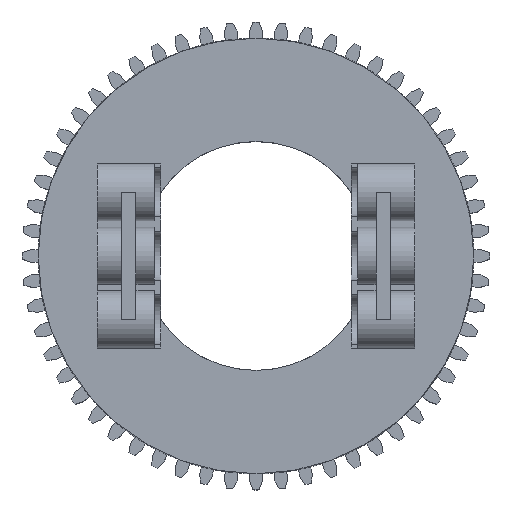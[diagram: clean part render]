
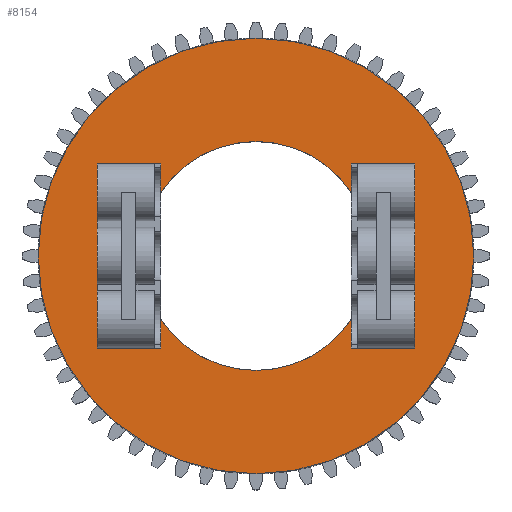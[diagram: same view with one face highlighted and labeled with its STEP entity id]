
A CAD part, top view. The second image highlights one B-rep face of the part: STEP entity #8154.
In plain terms, the highlighted planar face has unit normal (0, 0, 1).
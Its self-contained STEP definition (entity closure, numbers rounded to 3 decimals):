
#559=LINE('',#12761,#1443);
#561=LINE('',#12765,#1445);
#564=LINE('',#12771,#1448);
#565=LINE('',#12773,#1449);
#566=LINE('',#12774,#1450);
#568=LINE('',#12778,#1452);
#570=LINE('',#12782,#1454);
#573=LINE('',#12788,#1457);
#574=LINE('',#12790,#1458);
#575=LINE('',#12791,#1459);
#1443=VECTOR('',#10240,1000.);
#1445=VECTOR('',#10244,1000.);
#1448=VECTOR('',#10249,1000.);
#1449=VECTOR('',#10252,1000.);
#1450=VECTOR('',#10253,1000.);
#1452=VECTOR('',#10257,1000.);
#1454=VECTOR('',#10261,1000.);
#1457=VECTOR('',#10266,1000.);
#1458=VECTOR('',#10269,1000.);
#1459=VECTOR('',#10270,1000.);
#2113=PLANE('',#8877);
#4461=ORIENTED_EDGE('',*,*,#5286,.F.);
#4462=ORIENTED_EDGE('',*,*,#5285,.T.);
#4463=ORIENTED_EDGE('',*,*,#5282,.F.);
#4464=ORIENTED_EDGE('',*,*,#5280,.T.);
#4465=ORIENTED_EDGE('',*,*,#5287,.F.);
#4466=ORIENTED_EDGE('',*,*,#5576,.F.);
#4467=ORIENTED_EDGE('',*,*,#5277,.T.);
#4468=ORIENTED_EDGE('',*,*,#5276,.F.);
#4469=ORIENTED_EDGE('',*,*,#5273,.F.);
#4470=ORIENTED_EDGE('',*,*,#5271,.T.);
#4471=ORIENTED_EDGE('',*,*,#5278,.T.);
#4472=ORIENTED_EDGE('',*,*,#5577,.F.);
#4473=ORIENTED_EDGE('',*,*,#4830,.T.);
#4830=EDGE_CURVE('',#6006,#6006,#6572,.T.);
#5271=EDGE_CURVE('',#6282,#6281,#559,.T.);
#5273=EDGE_CURVE('',#6282,#6283,#561,.T.);
#5276=EDGE_CURVE('',#6283,#6284,#564,.T.);
#5277=EDGE_CURVE('',#6280,#6284,#565,.T.);
#5278=EDGE_CURVE('',#6281,#6279,#566,.T.);
#5280=EDGE_CURVE('',#6286,#6285,#568,.T.);
#5282=EDGE_CURVE('',#6286,#6287,#570,.T.);
#5285=EDGE_CURVE('',#6288,#6287,#573,.T.);
#5286=EDGE_CURVE('',#6288,#6278,#574,.T.);
#5287=EDGE_CURVE('',#6277,#6285,#575,.T.);
#5576=EDGE_CURVE('',#6280,#6277,#6750,.T.);
#5577=EDGE_CURVE('',#6278,#6279,#6751,.T.);
#6006=VERTEX_POINT('',#11898);
#6277=VERTEX_POINT('',#12750);
#6278=VERTEX_POINT('',#12751);
#6279=VERTEX_POINT('',#12755);
#6280=VERTEX_POINT('',#12756);
#6281=VERTEX_POINT('',#12760);
#6282=VERTEX_POINT('',#12762);
#6283=VERTEX_POINT('',#12766);
#6284=VERTEX_POINT('',#12770);
#6285=VERTEX_POINT('',#12777);
#6286=VERTEX_POINT('',#12779);
#6287=VERTEX_POINT('',#12783);
#6288=VERTEX_POINT('',#12787);
#6572=CIRCLE('',#8296,27.4);
#6750=CIRCLE('',#8752,14.4);
#6751=CIRCLE('',#8753,14.4);
#7198=EDGE_LOOP('',(#4461,#4462,#4463,#4464,#4465,#4466,#4467,#4468,#4469,
#4470,#4471,#4472));
#7199=EDGE_LOOP('',(#4473));
#7650=FACE_BOUND('',#7198,.T.);
#7651=FACE_BOUND('',#7199,.T.);
#8154=ADVANCED_FACE('',(#7650,#7651),#2113,.T.);
#8296=AXIS2_PLACEMENT_3D('',#11897,#9369,#9370);
#8752=AXIS2_PLACEMENT_3D('',#13369,#10849,#10850);
#8753=AXIS2_PLACEMENT_3D('',#13370,#10851,#10852);
#8877=AXIS2_PLACEMENT_3D('',#13576,#11181,#11182);
#9369=DIRECTION('',(0.,0.,1.));
#9370=DIRECTION('',(1.,0.,0.));
#10240=DIRECTION('',(1.,0.,0.));
#10244=DIRECTION('',(0.,-1.,0.));
#10249=DIRECTION('',(1.,0.,0.));
#10252=DIRECTION('',(0.,-1.,0.));
#10253=DIRECTION('',(0.,-1.,0.));
#10257=DIRECTION('',(-1.,0.,0.));
#10261=DIRECTION('',(0.,1.,0.));
#10266=DIRECTION('',(1.,0.,0.));
#10269=DIRECTION('',(0.,-1.,0.));
#10270=DIRECTION('',(0.,-1.,0.));
#10849=DIRECTION('',(0.,0.,1.));
#10850=DIRECTION('',(1.,0.,0.));
#10851=DIRECTION('',(0.,0.,1.));
#10852=DIRECTION('',(1.,0.,0.));
#11181=DIRECTION('',(0.,0.,1.));
#11182=DIRECTION('',(1.,0.,0.));
#11897=CARTESIAN_POINT('',(0.,0.,1.9));
#11898=CARTESIAN_POINT('',(27.4,0.,1.9));
#12750=CARTESIAN_POINT('',(12.,-7.96,1.9));
#12751=CARTESIAN_POINT('',(12.,7.96,1.9));
#12755=CARTESIAN_POINT('',(-12.,7.96,1.9));
#12756=CARTESIAN_POINT('',(-12.,-7.96,1.9));
#12760=CARTESIAN_POINT('',(-12.,11.6,1.9));
#12761=CARTESIAN_POINT('',(-20.,11.6,1.9));
#12762=CARTESIAN_POINT('',(-20.,11.6,1.9));
#12765=CARTESIAN_POINT('',(-20.,-11.6,1.9));
#12766=CARTESIAN_POINT('',(-20.,-11.6,1.9));
#12770=CARTESIAN_POINT('',(-12.,-11.6,1.9));
#12771=CARTESIAN_POINT('',(-20.,-11.6,1.9));
#12773=CARTESIAN_POINT('',(-12.,-11.6,1.9));
#12774=CARTESIAN_POINT('',(-12.,-11.6,1.9));
#12777=CARTESIAN_POINT('',(12.,-11.6,1.9));
#12778=CARTESIAN_POINT('',(14.4,-11.6,1.9));
#12779=CARTESIAN_POINT('',(20.,-11.6,1.9));
#12782=CARTESIAN_POINT('',(20.,0.,1.9));
#12783=CARTESIAN_POINT('',(20.,11.6,1.9));
#12787=CARTESIAN_POINT('',(12.,11.6,1.9));
#12788=CARTESIAN_POINT('',(14.4,11.6,1.9));
#12790=CARTESIAN_POINT('',(12.,-11.6,1.9));
#12791=CARTESIAN_POINT('',(12.,-11.6,1.9));
#13369=CARTESIAN_POINT('',(0.,0.,1.9));
#13370=CARTESIAN_POINT('',(0.,0.,1.9));
#13576=CARTESIAN_POINT('',(14.4,0.,1.9));
